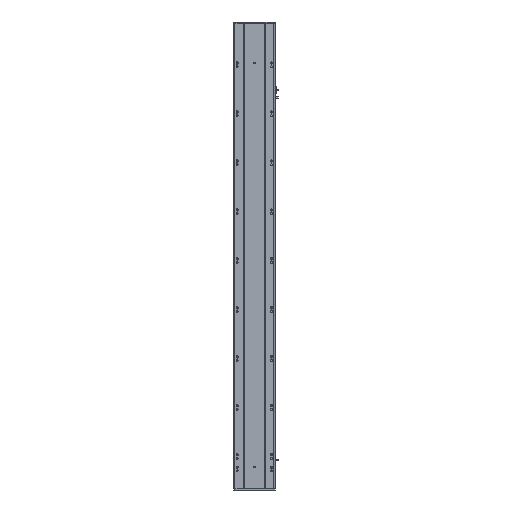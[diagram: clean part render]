
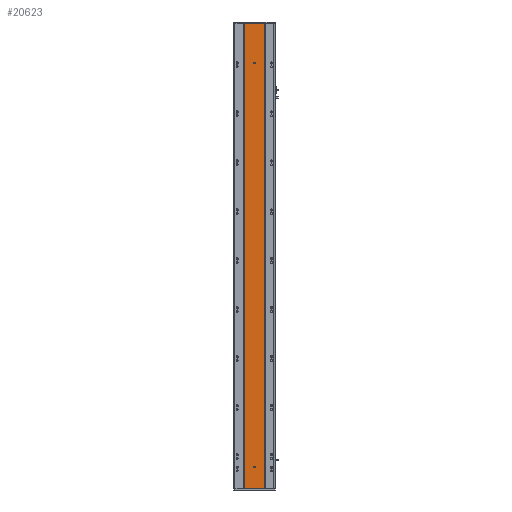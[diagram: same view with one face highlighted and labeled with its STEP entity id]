
A CAD part, front view. The second image highlights one B-rep face of the part: STEP entity #20623.
In plain terms, the highlighted planar face has unit normal (0, -1, 0).
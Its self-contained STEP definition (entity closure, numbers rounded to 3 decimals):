
#338 = EDGE_CURVE ( 'NONE', #17759, #8127, #12855, .T. ) ;
#536 = EDGE_LOOP ( 'NONE', ( #3593, #16604, #8858, #16205 ) ) ;
#981 = CARTESIAN_POINT ( 'NONE',  ( 85., 2.57, 1735.5 ) ) ;
#1603 = ORIENTED_EDGE ( 'NONE', *, *, #4835, .T. ) ;
#1738 = CARTESIAN_POINT ( 'NONE',  ( 42.916, 2.57, 0. ) ) ;
#1858 = VERTEX_POINT ( 'NONE', #11311 ) ;
#1894 = EDGE_LOOP ( 'NONE', ( #7897, #1603 ) ) ;
#2059 = FACE_BOUND ( 'NONE', #19021, .T. ) ;
#2108 = CARTESIAN_POINT ( 'NONE',  ( 42.916, 2.57, 1901. ) ) ;
#2382 = ORIENTED_EDGE ( 'NONE', *, *, #25743, .T. ) ;
#2761 = CARTESIAN_POINT ( 'NONE',  ( 42.916, 2.57, 0. ) ) ;
#3593 = ORIENTED_EDGE ( 'NONE', *, *, #24001, .T. ) ;
#3771 = DIRECTION ( 'NONE',  ( -1., 0., 0. ) ) ;
#4645 = AXIS2_PLACEMENT_3D ( 'NONE', #22346, #9629, #24457 ) ;
#4835 = EDGE_CURVE ( 'NONE', #6504, #18539, #5773, .T. ) ;
#5390 = CARTESIAN_POINT ( 'NONE',  ( 126.916, 2.57, 1901. ) ) ;
#5773 = CIRCLE ( 'NONE', #7523, 3. ) ;
#6504 = VERTEX_POINT ( 'NONE', #20752 ) ;
#6553 = ORIENTED_EDGE ( 'NONE', *, *, #338, .T. ) ;
#6600 = CARTESIAN_POINT ( 'NONE',  ( 42.916, 2.57, 0. ) ) ;
#7030 = DIRECTION ( 'NONE',  ( 0., 0., 1. ) ) ;
#7062 = DIRECTION ( 'NONE',  ( 0., 1., 0. ) ) ;
#7099 = CARTESIAN_POINT ( 'NONE',  ( 85., 2.57, 88.5 ) ) ;
#7523 = AXIS2_PLACEMENT_3D ( 'NONE', #25597, #12968, #27739 ) ;
#7897 = ORIENTED_EDGE ( 'NONE', *, *, #24110, .T. ) ;
#8127 = VERTEX_POINT ( 'NONE', #13933 ) ;
#8858 = ORIENTED_EDGE ( 'NONE', *, *, #24974, .F. ) ;
#8878 = VECTOR ( 'NONE', #14809, 1000. ) ;
#9573 = LINE ( 'NONE', #14901, #8878 ) ;
#9629 = DIRECTION ( 'NONE',  ( 0., 1., 0. ) ) ;
#10422 = LINE ( 'NONE', #1738, #21043 ) ;
#11311 = CARTESIAN_POINT ( 'NONE',  ( 42.916, 2.57, 1901. ) ) ;
#11536 = CARTESIAN_POINT ( 'NONE',  ( 85., 2.57, 1738.5 ) ) ;
#11543 = DIRECTION ( 'NONE',  ( 0., 0., 1. ) ) ;
#11766 = VERTEX_POINT ( 'NONE', #26598 ) ;
#12738 = VECTOR ( 'NONE', #3771, 1000. ) ;
#12798 = VECTOR ( 'NONE', #13140, 1000. ) ;
#12855 = CIRCLE ( 'NONE', #15360, 3. ) ;
#12916 = EDGE_CURVE ( 'NONE', #11766, #26369, #9573, .T. ) ;
#12968 = DIRECTION ( 'NONE',  ( 0., 1., 0. ) ) ;
#13140 = DIRECTION ( 'NONE',  ( -1., 0., 0. ) ) ;
#13678 = DIRECTION ( 'NONE',  ( 0., 0., 1. ) ) ;
#13933 = CARTESIAN_POINT ( 'NONE',  ( 85., 2.57, 91.5 ) ) ;
#14809 = DIRECTION ( 'NONE',  ( 0., 0., 1. ) ) ;
#14901 = CARTESIAN_POINT ( 'NONE',  ( 126.916, 2.57, 0. ) ) ;
#15360 = AXIS2_PLACEMENT_3D ( 'NONE', #7099, #7062, #7030 ) ;
#16205 = ORIENTED_EDGE ( 'NONE', *, *, #12916, .T. ) ;
#16390 = CIRCLE ( 'NONE', #17032, 3. ) ;
#16604 = ORIENTED_EDGE ( 'NONE', *, *, #23878, .F. ) ;
#17032 = AXIS2_PLACEMENT_3D ( 'NONE', #11536, #26338, #13678 ) ;
#17217 = FACE_OUTER_BOUND ( 'NONE', #536, .T. ) ;
#17317 = AXIS2_PLACEMENT_3D ( 'NONE', #2761, #24162, #11543 ) ;
#17759 = VERTEX_POINT ( 'NONE', #23225 ) ;
#17881 = VERTEX_POINT ( 'NONE', #6600 ) ;
#18382 = LINE ( 'NONE', #2108, #12798 ) ;
#18539 = VERTEX_POINT ( 'NONE', #981 ) ;
#18760 = CARTESIAN_POINT ( 'NONE',  ( 42.916, 2.57, 0. ) ) ;
#19021 = EDGE_LOOP ( 'NONE', ( #6553, #2382 ) ) ;
#20623 = ADVANCED_FACE ( 'NONE', ( #2059, #22814, #17217 ), #21977, .F. ) ;
#20752 = CARTESIAN_POINT ( 'NONE',  ( 85., 2.57, 1741.5 ) ) ;
#21043 = VECTOR ( 'NONE', #25296, 1000. ) ;
#21977 = PLANE ( 'NONE',  #17317 ) ;
#22346 = CARTESIAN_POINT ( 'NONE',  ( 85., 2.57, 88.5 ) ) ;
#22814 = FACE_BOUND ( 'NONE', #1894, .T. ) ;
#23225 = CARTESIAN_POINT ( 'NONE',  ( 85., 2.57, 85.5 ) ) ;
#23294 = LINE ( 'NONE', #18760, #12738 ) ;
#23574 = CIRCLE ( 'NONE', #4645, 3. ) ;
#23878 = EDGE_CURVE ( 'NONE', #17881, #1858, #10422, .T. ) ;
#24001 = EDGE_CURVE ( 'NONE', #26369, #1858, #18382, .T. ) ;
#24110 = EDGE_CURVE ( 'NONE', #18539, #6504, #16390, .T. ) ;
#24162 = DIRECTION ( 'NONE',  ( 0., 1., 0. ) ) ;
#24457 = DIRECTION ( 'NONE',  ( 0., 0., 1. ) ) ;
#24974 = EDGE_CURVE ( 'NONE', #11766, #17881, #23294, .T. ) ;
#25296 = DIRECTION ( 'NONE',  ( 0., 0., 1. ) ) ;
#25597 = CARTESIAN_POINT ( 'NONE',  ( 85., 2.57, 1738.5 ) ) ;
#25743 = EDGE_CURVE ( 'NONE', #8127, #17759, #23574, .T. ) ;
#26338 = DIRECTION ( 'NONE',  ( 0., 1., 0. ) ) ;
#26369 = VERTEX_POINT ( 'NONE', #5390 ) ;
#26598 = CARTESIAN_POINT ( 'NONE',  ( 126.916, 2.57, 0. ) ) ;
#27739 = DIRECTION ( 'NONE',  ( 0., 0., 1. ) ) ;
